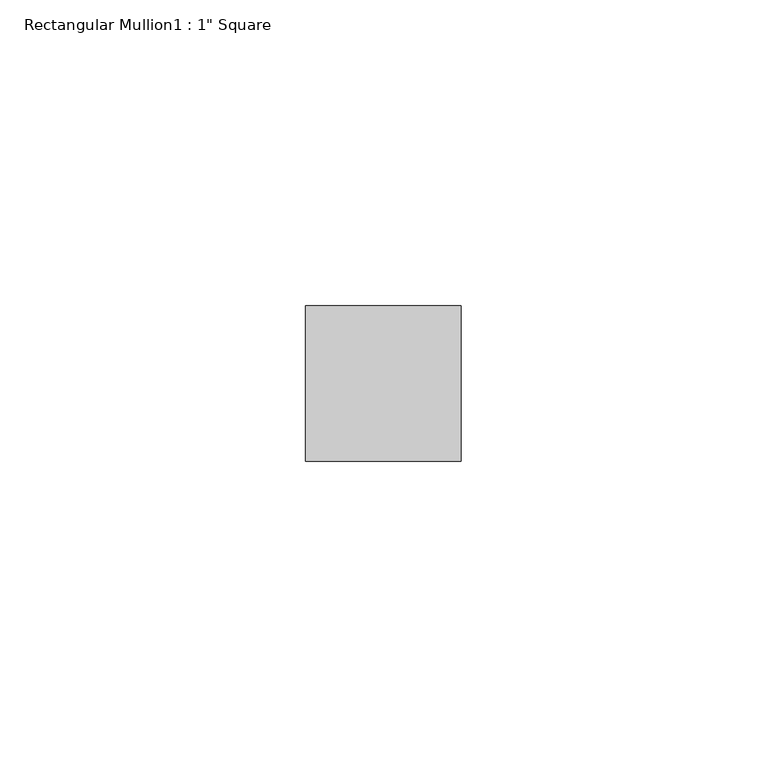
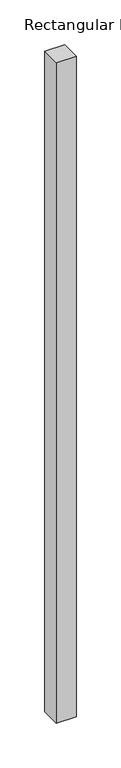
"""IFC4 building model written with IfcOpenShell, lengths in millimetres: member geometry."""

from ifc_helpers import new_model, si_unit, frame, origin, place, context, project, spatial, polyline, outline, extrude, source, transform, mapped, element, save


def member_48a22cbc(model_context):
    return source(origin(), model_context, "Body", "SweptSolid", [
        extrude(outline(polyline([(0.0, -19.05), (0.0, -44.45), (-25.4, -44.45), (-25.4, -19.05), (0.0, -19.05)])), frame((0.0, 0.0, -897.3298256), z_axis=(0.0, 0.0, 1.0), x_axis=(1.0, 0.0, 0.0)), (0.0, 0.0, 1.0), 897.3298256),
    ])


if __name__ == "__main__":
    model = new_model("IFC4")
    model_context = context("Model", 3, world=origin())
    ifc_project = project(units=[si_unit("LENGTHUNIT", "METRE", prefix="MILLI")], contexts=[model_context])
    site = spatial("IfcSite", under=ifc_project)
    building = spatial("IfcBuilding", under=site)
    placement = place(None, origin())
    member_shape = member_48a22cbc(model_context)
    element("IfcMember", 1, ObjectType="Rectangular Mullion1 : 1\" Square", at=placement, inside=building, context=model_context, shape_type="MappedRepresentation", body=[
        mapped(member_shape, transform((0.0, 0.0, 0.0), x_axis=(1.0, 0.0, 0.0), y_axis=(0.0, 1.0, 0.0), z_axis=(0.0, 0.0, 1.0))),
    ])
    save(model, "model.ifc")
